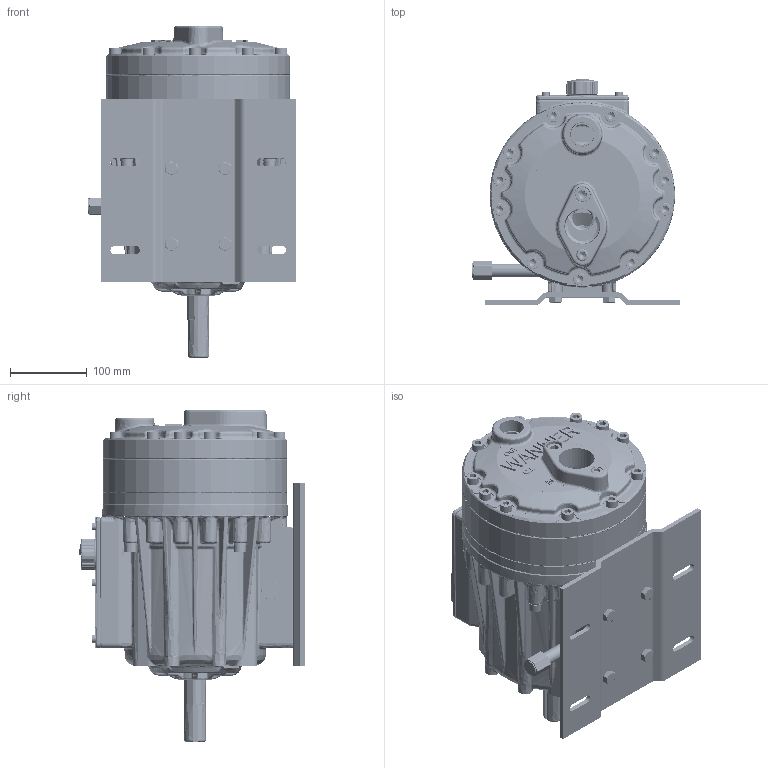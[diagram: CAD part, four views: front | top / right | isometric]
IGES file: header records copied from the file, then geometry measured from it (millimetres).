
Start section: SolidWorks IGES file using analytic representation for surfaces
Global section: file name: Q:\ENG\!!Gary\Outline-Dwgs\Latest-Pump-Adapt-Ki\H25-M-CF.IGS; native system: SolidWorks 2007; preprocessor: SolidWorks 2007; author: garyi; date: 081103.103556; units: inch
Bounding box: 269.87 x 293.87 x 432.05 mm (x, y, z)
Surface area: 1475405.8 mm2 (no closed solid volume)
Topology: 0 solids, 0 shells, 10907 faces, 127479 edges, 127409 vertices
Faces by surface type: revolution 6531, bspline 4376
